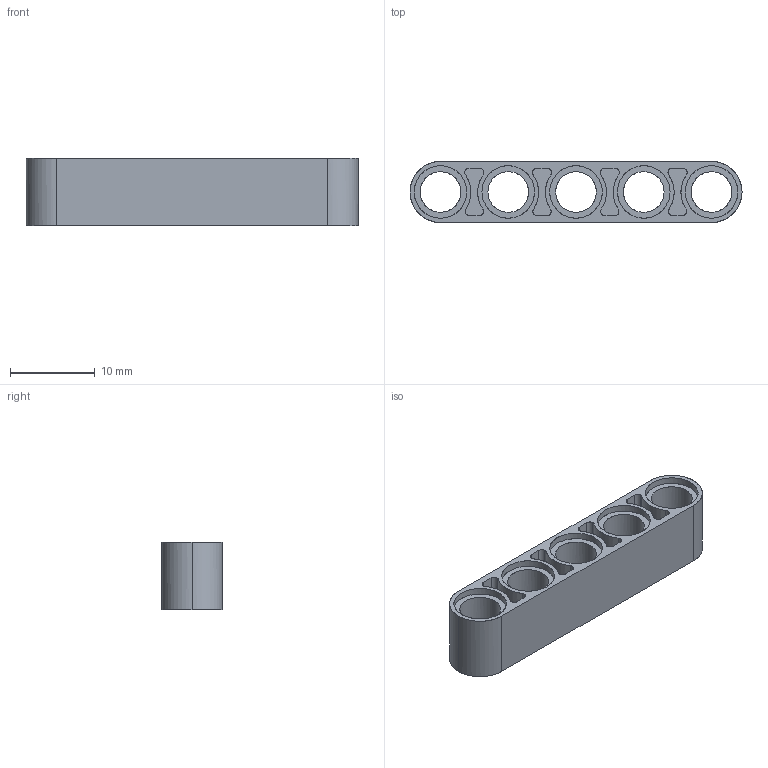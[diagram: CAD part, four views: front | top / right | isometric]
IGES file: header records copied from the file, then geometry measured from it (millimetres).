
Start section: C
Global section: file name: ClGray_4211651_AVV.iges; native system: By Siemens PLM Incorporated; preprocessor: XPlus GENERIC/IGES 26.1.183; author: Author; organization: Title; date: 20250721.235222; units: millimetre
Bounding box: 39.2 x 7.2 x 8 mm (x, y, z)
Surface area: 2074.1 mm2 (no closed solid volume)
Topology: 0 solids, 0 shells, 129 faces, 714 edges, 714 vertices
Faces by surface type: bspline 129
